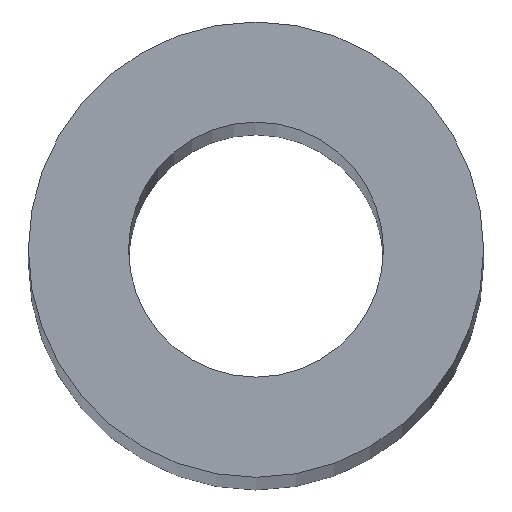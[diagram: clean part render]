
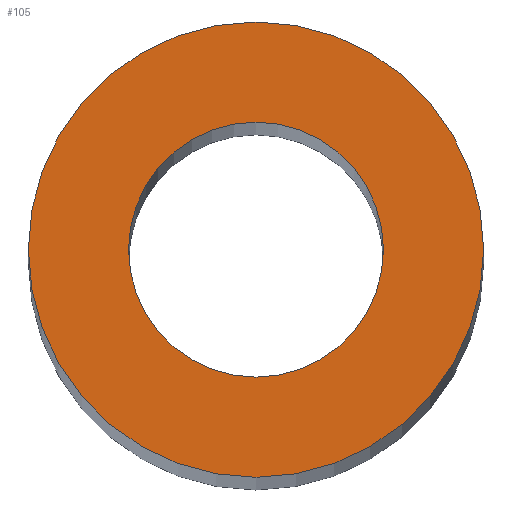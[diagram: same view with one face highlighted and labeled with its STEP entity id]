
A CAD part, top view. The second image highlights one B-rep face of the part: STEP entity #105.
In plain terms, the highlighted planar face has unit normal (0, 0, 1).
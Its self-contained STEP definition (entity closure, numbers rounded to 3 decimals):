
#21 = EDGE_CURVE('',#22,#22,#24,.T.);
#22 = VERTEX_POINT('',#23);
#23 = CARTESIAN_POINT('',(27.,-100.,-60.));
#24 = SURFACE_CURVE('',#25,(#30,#42),.PCURVE_S1.);
#25 = CIRCLE('',#26,5.);
#26 = AXIS2_PLACEMENT_3D('',#27,#28,#29);
#27 = CARTESIAN_POINT('',(22.,-100.,-60.));
#28 = DIRECTION('',(0.,0.,1.));
#29 = DIRECTION('',(1.,0.,-0.));
#30 = PCURVE('',#31,#36);
#31 = CYLINDRICAL_SURFACE('',#32,5.);
#32 = AXIS2_PLACEMENT_3D('',#33,#34,#35);
#33 = CARTESIAN_POINT('',(22.,-100.,-220.));
#34 = DIRECTION('',(0.,0.,1.));
#35 = DIRECTION('',(1.,0.,-0.));
#36 = DEFINITIONAL_REPRESENTATION('',(#37),#41);
#37 = LINE('',#38,#39);
#38 = CARTESIAN_POINT('',(0.,160.));
#39 = VECTOR('',#40,1.);
#40 = DIRECTION('',(1.,0.));
#41 = ( GEOMETRIC_REPRESENTATION_CONTEXT(2) 
PARAMETRIC_REPRESENTATION_CONTEXT() REPRESENTATION_CONTEXT('2D SPACE',''
  ) );
#42 = PCURVE('',#43,#48);
#43 = PLANE('',#44);
#44 = AXIS2_PLACEMENT_3D('',#45,#46,#47);
#45 = CARTESIAN_POINT('',(22.,-100.,-60.));
#46 = DIRECTION('',(0.,0.,1.));
#47 = DIRECTION('',(1.,0.,-0.));
#48 = DEFINITIONAL_REPRESENTATION('',(#49),#53);
#49 = CIRCLE('',#50,5.);
#50 = AXIS2_PLACEMENT_2D('',#51,#52);
#51 = CARTESIAN_POINT('',(0.,0.));
#52 = DIRECTION('',(1.,0.));
#53 = ( GEOMETRIC_REPRESENTATION_CONTEXT(2) 
PARAMETRIC_REPRESENTATION_CONTEXT() REPRESENTATION_CONTEXT('2D SPACE',''
  ) );
#105 = ADVANCED_FACE('',(#106,#109),#43,.T.);
#106 = FACE_BOUND('',#107,.T.);
#107 = EDGE_LOOP('',(#108));
#108 = ORIENTED_EDGE('',*,*,#21,.T.);
#109 = FACE_BOUND('',#110,.T.);
#110 = EDGE_LOOP('',(#111));
#111 = ORIENTED_EDGE('',*,*,#112,.F.);
#112 = EDGE_CURVE('',#113,#113,#115,.T.);
#113 = VERTEX_POINT('',#114);
#114 = CARTESIAN_POINT('',(24.8,-100.,-60.));
#115 = SURFACE_CURVE('',#116,(#121,#128),.PCURVE_S1.);
#116 = CIRCLE('',#117,2.8);
#117 = AXIS2_PLACEMENT_3D('',#118,#119,#120);
#118 = CARTESIAN_POINT('',(22.,-100.,-60.));
#119 = DIRECTION('',(0.,0.,1.));
#120 = DIRECTION('',(1.,0.,-0.));
#121 = PCURVE('',#43,#122);
#122 = DEFINITIONAL_REPRESENTATION('',(#123),#127);
#123 = CIRCLE('',#124,2.8);
#124 = AXIS2_PLACEMENT_2D('',#125,#126);
#125 = CARTESIAN_POINT('',(0.,0.));
#126 = DIRECTION('',(1.,0.));
#127 = ( GEOMETRIC_REPRESENTATION_CONTEXT(2) 
PARAMETRIC_REPRESENTATION_CONTEXT() REPRESENTATION_CONTEXT('2D SPACE',''
  ) );
#128 = PCURVE('',#129,#134);
#129 = CYLINDRICAL_SURFACE('',#130,2.8);
#130 = AXIS2_PLACEMENT_3D('',#131,#132,#133);
#131 = CARTESIAN_POINT('',(22.,-100.,-220.));
#132 = DIRECTION('',(0.,0.,1.));
#133 = DIRECTION('',(1.,0.,-0.));
#134 = DEFINITIONAL_REPRESENTATION('',(#135),#139);
#135 = LINE('',#136,#137);
#136 = CARTESIAN_POINT('',(0.,160.));
#137 = VECTOR('',#138,1.);
#138 = DIRECTION('',(1.,0.));
#139 = ( GEOMETRIC_REPRESENTATION_CONTEXT(2) 
PARAMETRIC_REPRESENTATION_CONTEXT() REPRESENTATION_CONTEXT('2D SPACE',''
  ) );
